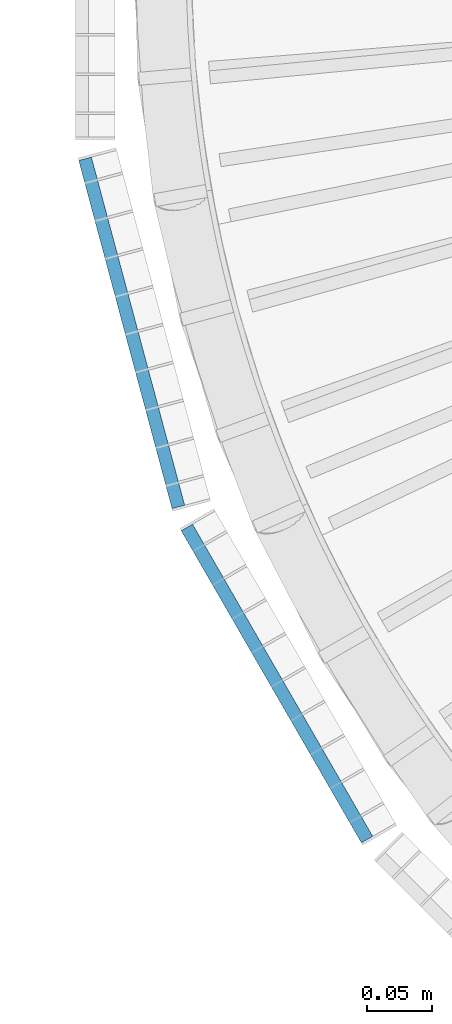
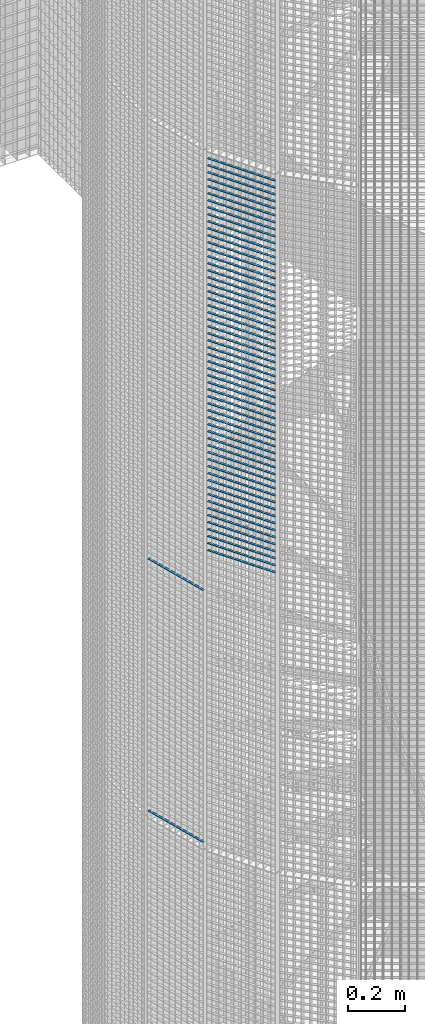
# One storey, part 372 of 1183: 59 beams, 2 elements without a shape of their own.
"""IFC2X3 building model written with IfcOpenShell, lengths in millimetres."""

from ifc_helpers import new_model, si_unit, frame, origin_with_axes, origin_2d_with_axis, place, context, subcontext, project, spatial, rectangle, extrude, material, type_object, element, aggregate, save


model = new_model("IFC2X3")

# Units and contexts
model_context = context("Model", 3, precision=1e-05, world=origin_with_axes())
body_context = subcontext(model_context, "Body", "Model", "MODEL_VIEW")
ifc_project = project(units=[si_unit("LENGTHUNIT", "METRE", prefix="MILLI"), si_unit("AREAUNIT", "SQUARE_METRE"), si_unit("VOLUMEUNIT", "CUBIC_METRE"), si_unit("MASSUNIT", "GRAM", prefix="KILO"), si_unit("TIMEUNIT", "SECOND"), si_unit("PLANEANGLEUNIT", "RADIAN"), si_unit("SOLIDANGLEUNIT", "STERADIAN"), si_unit("THERMODYNAMICTEMPERATUREUNIT", "DEGREE_CELSIUS"), si_unit("LUMINOUSINTENSITYUNIT", "LUMEN")], contexts=[model_context])

# Site, building, storey
site_placement = place(None, origin_with_axes())
site = spatial("IfcSite", under=ifc_project, at=site_placement, Name="Undefined", CompositionType="ELEMENT")
building_placement = place(site_placement, origin_with_axes())
building = spatial("IfcBuilding", under=site, at=building_placement, Name="Undefined", CompositionType="ELEMENT")
storey_placement = place(building_placement, origin_with_axes())
storey = spatial("IfcBuildingStorey", under=building, at=storey_placement, Name="Undefined", CompositionType="ELEMENT", Elevation=0.0)

# Assembly, beams
assembly_1_placement = place(storey_placement, origin_with_axes())
assembly_1 = element("IfcElementAssembly", 1, at=assembly_1_placement, inside=storey, Name="BORDURE", AssemblyPlace="NOTDEFINED", PredefinedType="NOTDEFINED")
ifc_material = material(Name="STEEL/S235JR")
beam_type = type_object("IfcBeamType", Name="PL2*10", PredefinedType="NOTDEFINED")
beam_1_placement = place(assembly_1_placement, frame((20560.1769047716, -421.483733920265, 4110.0), z_axis=(-0.965925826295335, -0.258819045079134, 0.0), x_axis=(-0.258819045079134, 0.965925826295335, 0.0)))
beam_1 = element("IfcBeam", 2, at=beam_1_placement, type_object=beam_type, material=ifc_material, Name="ENTRETOISE", context=body_context, shape_type="SweptSolid", body=[
    extrude(rectangle(XDim=2.0, YDim=10.0, at=origin_2d_with_axis()), frame((275.999999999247, 9.09494701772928e-13, 1.53210777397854e-14), z_axis=(-1.0, 0.0, 0.0), x_axis=(0.0, -1.0, 0.0)), (0.0, 0.0, 1.0), 276.0),
])
beam_2_placement = place(assembly_1_placement, frame((20560.1769047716, -421.48373392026, 3030.0), z_axis=(-0.965925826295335, -0.258819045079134, 0.0), x_axis=(-0.258819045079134, 0.965925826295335, 0.0)))
beam_2 = element("IfcBeam", 3, at=beam_2_placement, type_object=beam_type, material=ifc_material, Name="ENTRETOISE", context=body_context, shape_type="SweptSolid", body=[
    extrude(rectangle(XDim=2.0, YDim=10.0, at=origin_2d_with_axis()), frame((275.999999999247, 9.09494701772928e-13, 1.53210777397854e-14), z_axis=(-1.0, 0.0, 0.0), x_axis=(0.0, -1.0, 0.0)), (0.0, 0.0, 1.0), 276.0),
])
aggregate(assembly_1, [beam_1, beam_2])

assembly_2_placement = place(storey_placement, origin_with_axes())
assembly_2 = element("IfcElementAssembly", 4, at=assembly_2_placement, inside=storey, Name="BORDURE", AssemblyPlace="NOTDEFINED", PredefinedType="NOTDEFINED")
beam_3_placement = place(assembly_2_placement, frame((20704.6960350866, -676.248044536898, 5970.0), z_axis=(-0.866025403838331, -0.499999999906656, 0.0), x_axis=(-0.49999999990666, 0.866025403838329, 0.0)))
beam_3 = element("IfcBeam", 5, at=beam_3_placement, type_object=beam_type, material=ifc_material, Name="ENTRETOISE", context=body_context, shape_type="SweptSolid", body=[
    extrude(rectangle(XDim=2.0, YDim=10.0, at=origin_2d_with_axis()), frame((275.999999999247, 9.09494701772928e-13, 1.53210777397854e-14), z_axis=(-1.0, 0.0, 0.0), x_axis=(0.0, -1.0, 0.0)), (0.0, 0.0, 1.0), 276.0),
])
beam_4_placement = place(assembly_2_placement, frame((20704.6960350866, -676.248044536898, 5940.0), z_axis=(-0.866025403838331, -0.499999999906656, 0.0), x_axis=(-0.49999999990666, 0.866025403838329, 0.0)))
beam_4 = element("IfcBeam", 6, at=beam_4_placement, type_object=beam_type, material=ifc_material, Name="ENTRETOISE", context=body_context, shape_type="SweptSolid", body=[
    extrude(rectangle(XDim=2.0, YDim=10.0, at=origin_2d_with_axis()), frame((275.999999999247, 9.09494701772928e-13, 1.53210777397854e-14), z_axis=(-1.0, 0.0, 0.0), x_axis=(0.0, -1.0, 0.0)), (0.0, 0.0, 1.0), 276.0),
])
beam_5_placement = place(assembly_2_placement, frame((20704.6960350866, -676.248044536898, 5910.0), z_axis=(-0.866025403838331, -0.499999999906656, 0.0), x_axis=(-0.49999999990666, 0.866025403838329, 0.0)))
beam_5 = element("IfcBeam", 7, at=beam_5_placement, type_object=beam_type, material=ifc_material, Name="ENTRETOISE", context=body_context, shape_type="SweptSolid", body=[
    extrude(rectangle(XDim=2.0, YDim=10.0, at=origin_2d_with_axis()), frame((275.999999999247, 9.09494701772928e-13, 1.53210777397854e-14), z_axis=(-1.0, 0.0, 0.0), x_axis=(0.0, -1.0, 0.0)), (0.0, 0.0, 1.0), 276.0),
])
beam_6_placement = place(assembly_2_placement, frame((20704.6960350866, -676.248044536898, 5880.0), z_axis=(-0.866025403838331, -0.499999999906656, 0.0), x_axis=(-0.49999999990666, 0.866025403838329, 0.0)))
beam_6 = element("IfcBeam", 8, at=beam_6_placement, type_object=beam_type, material=ifc_material, Name="ENTRETOISE", context=body_context, shape_type="SweptSolid", body=[
    extrude(rectangle(XDim=2.0, YDim=10.0, at=origin_2d_with_axis()), frame((275.999999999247, 9.09494701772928e-13, 1.53210777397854e-14), z_axis=(-1.0, 0.0, 0.0), x_axis=(0.0, -1.0, 0.0)), (0.0, 0.0, 1.0), 276.0),
])
beam_7_placement = place(assembly_2_placement, frame((20704.6960350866, -676.248044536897, 5850.0), z_axis=(-0.866025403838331, -0.499999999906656, 0.0), x_axis=(-0.49999999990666, 0.866025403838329, 0.0)))
beam_7 = element("IfcBeam", 9, at=beam_7_placement, type_object=beam_type, material=ifc_material, Name="ENTRETOISE", context=body_context, shape_type="SweptSolid", body=[
    extrude(rectangle(XDim=2.0, YDim=10.0, at=origin_2d_with_axis()), frame((275.999999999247, 9.09494701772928e-13, 1.53210777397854e-14), z_axis=(-1.0, 0.0, 0.0), x_axis=(0.0, -1.0, 0.0)), (0.0, 0.0, 1.0), 276.0),
])
beam_8_placement = place(assembly_2_placement, frame((20704.6960350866, -676.248044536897, 5820.0), z_axis=(-0.866025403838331, -0.499999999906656, 0.0), x_axis=(-0.49999999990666, 0.866025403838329, 0.0)))
beam_8 = element("IfcBeam", 10, at=beam_8_placement, type_object=beam_type, material=ifc_material, Name="ENTRETOISE", context=body_context, shape_type="SweptSolid", body=[
    extrude(rectangle(XDim=2.0, YDim=10.0, at=origin_2d_with_axis()), frame((275.999999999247, 9.09494701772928e-13, 1.53210777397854e-14), z_axis=(-1.0, 0.0, 0.0), x_axis=(0.0, -1.0, 0.0)), (0.0, 0.0, 1.0), 276.0),
])
beam_9_placement = place(assembly_2_placement, frame((20704.6960350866, -676.248044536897, 5790.0), z_axis=(-0.866025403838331, -0.499999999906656, 0.0), x_axis=(-0.49999999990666, 0.866025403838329, 0.0)))
beam_9 = element("IfcBeam", 11, at=beam_9_placement, type_object=beam_type, material=ifc_material, Name="ENTRETOISE", context=body_context, shape_type="SweptSolid", body=[
    extrude(rectangle(XDim=2.0, YDim=10.0, at=origin_2d_with_axis()), frame((275.999999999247, 9.09494701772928e-13, 1.53210777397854e-14), z_axis=(-1.0, 0.0, 0.0), x_axis=(0.0, -1.0, 0.0)), (0.0, 0.0, 1.0), 276.0),
])
beam_10_placement = place(assembly_2_placement, frame((20704.6960350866, -676.248044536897, 5760.0), z_axis=(-0.866025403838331, -0.499999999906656, 0.0), x_axis=(-0.49999999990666, 0.866025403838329, 0.0)))
beam_10 = element("IfcBeam", 12, at=beam_10_placement, type_object=beam_type, material=ifc_material, Name="ENTRETOISE", context=body_context, shape_type="SweptSolid", body=[
    extrude(rectangle(XDim=2.0, YDim=10.0, at=origin_2d_with_axis()), frame((275.999999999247, 9.09494701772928e-13, 1.53210777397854e-14), z_axis=(-1.0, 0.0, 0.0), x_axis=(0.0, -1.0, 0.0)), (0.0, 0.0, 1.0), 276.0),
])
beam_11_placement = place(assembly_2_placement, frame((20704.6960350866, -676.248044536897, 5730.0), z_axis=(-0.866025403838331, -0.499999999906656, 0.0), x_axis=(-0.49999999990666, 0.866025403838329, 0.0)))
beam_11 = element("IfcBeam", 13, at=beam_11_placement, type_object=beam_type, material=ifc_material, Name="ENTRETOISE", context=body_context, shape_type="SweptSolid", body=[
    extrude(rectangle(XDim=2.0, YDim=10.0, at=origin_2d_with_axis()), frame((275.999999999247, 9.09494701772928e-13, 1.53210777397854e-14), z_axis=(-1.0, 0.0, 0.0), x_axis=(0.0, -1.0, 0.0)), (0.0, 0.0, 1.0), 276.0),
])
beam_12_placement = place(assembly_2_placement, frame((20704.6960350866, -676.248044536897, 5700.0), z_axis=(-0.866025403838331, -0.499999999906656, 0.0), x_axis=(-0.49999999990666, 0.866025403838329, 0.0)))
beam_12 = element("IfcBeam", 14, at=beam_12_placement, type_object=beam_type, material=ifc_material, Name="ENTRETOISE", context=body_context, shape_type="SweptSolid", body=[
    extrude(rectangle(XDim=2.0, YDim=10.0, at=origin_2d_with_axis()), frame((275.999999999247, 9.09494701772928e-13, 1.53210777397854e-14), z_axis=(-1.0, 0.0, 0.0), x_axis=(0.0, -1.0, 0.0)), (0.0, 0.0, 1.0), 276.0),
])
beam_13_placement = place(assembly_2_placement, frame((20704.6960350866, -676.248044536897, 5670.0), z_axis=(-0.866025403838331, -0.499999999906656, 0.0), x_axis=(-0.49999999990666, 0.866025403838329, 0.0)))
beam_13 = element("IfcBeam", 15, at=beam_13_placement, type_object=beam_type, material=ifc_material, Name="ENTRETOISE", context=body_context, shape_type="SweptSolid", body=[
    extrude(rectangle(XDim=2.0, YDim=10.0, at=origin_2d_with_axis()), frame((275.999999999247, 9.09494701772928e-13, 1.53210777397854e-14), z_axis=(-1.0, 0.0, 0.0), x_axis=(0.0, -1.0, 0.0)), (0.0, 0.0, 1.0), 276.0),
])
beam_14_placement = place(assembly_2_placement, frame((20704.6960350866, -676.248044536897, 5640.0), z_axis=(-0.866025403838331, -0.499999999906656, 0.0), x_axis=(-0.49999999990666, 0.866025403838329, 0.0)))
beam_14 = element("IfcBeam", 16, at=beam_14_placement, type_object=beam_type, material=ifc_material, Name="ENTRETOISE", context=body_context, shape_type="SweptSolid", body=[
    extrude(rectangle(XDim=2.0, YDim=10.0, at=origin_2d_with_axis()), frame((275.999999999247, 9.09494701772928e-13, 1.53210777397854e-14), z_axis=(-1.0, 0.0, 0.0), x_axis=(0.0, -1.0, 0.0)), (0.0, 0.0, 1.0), 276.0),
])
beam_15_placement = place(assembly_2_placement, frame((20704.6960350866, -676.248044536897, 5610.0), z_axis=(-0.866025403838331, -0.499999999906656, 0.0), x_axis=(-0.49999999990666, 0.866025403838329, 0.0)))
beam_15 = element("IfcBeam", 17, at=beam_15_placement, type_object=beam_type, material=ifc_material, Name="ENTRETOISE", context=body_context, shape_type="SweptSolid", body=[
    extrude(rectangle(XDim=2.0, YDim=10.0, at=origin_2d_with_axis()), frame((275.999999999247, 9.09494701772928e-13, 1.53210777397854e-14), z_axis=(-1.0, 0.0, 0.0), x_axis=(0.0, -1.0, 0.0)), (0.0, 0.0, 1.0), 276.0),
])
beam_16_placement = place(assembly_2_placement, frame((20704.6960350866, -676.248044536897, 5580.0), z_axis=(-0.866025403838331, -0.499999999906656, 0.0), x_axis=(-0.49999999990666, 0.866025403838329, 0.0)))
beam_16 = element("IfcBeam", 18, at=beam_16_placement, type_object=beam_type, material=ifc_material, Name="ENTRETOISE", context=body_context, shape_type="SweptSolid", body=[
    extrude(rectangle(XDim=2.0, YDim=10.0, at=origin_2d_with_axis()), frame((275.999999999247, 9.09494701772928e-13, 1.53210777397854e-14), z_axis=(-1.0, 0.0, 0.0), x_axis=(0.0, -1.0, 0.0)), (0.0, 0.0, 1.0), 276.0),
])
beam_17_placement = place(assembly_2_placement, frame((20704.6960350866, -676.248044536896, 5550.0), z_axis=(-0.866025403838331, -0.499999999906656, 0.0), x_axis=(-0.49999999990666, 0.866025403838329, 0.0)))
beam_17 = element("IfcBeam", 19, at=beam_17_placement, type_object=beam_type, material=ifc_material, Name="ENTRETOISE", context=body_context, shape_type="SweptSolid", body=[
    extrude(rectangle(XDim=2.0, YDim=10.0, at=origin_2d_with_axis()), frame((275.999999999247, 9.09494701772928e-13, 1.53210777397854e-14), z_axis=(-1.0, 0.0, 0.0), x_axis=(0.0, -1.0, 0.0)), (0.0, 0.0, 1.0), 276.0),
])
beam_18_placement = place(assembly_2_placement, frame((20704.6960350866, -676.248044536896, 5520.0), z_axis=(-0.866025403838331, -0.499999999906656, 0.0), x_axis=(-0.49999999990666, 0.866025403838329, 0.0)))
beam_18 = element("IfcBeam", 20, at=beam_18_placement, type_object=beam_type, material=ifc_material, Name="ENTRETOISE", context=body_context, shape_type="SweptSolid", body=[
    extrude(rectangle(XDim=2.0, YDim=10.0, at=origin_2d_with_axis()), frame((275.999999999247, 9.09494701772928e-13, 1.53210777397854e-14), z_axis=(-1.0, 0.0, 0.0), x_axis=(0.0, -1.0, 0.0)), (0.0, 0.0, 1.0), 276.0),
])
beam_19_placement = place(assembly_2_placement, frame((20704.6960350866, -676.248044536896, 5490.0), z_axis=(-0.866025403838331, -0.499999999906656, 0.0), x_axis=(-0.49999999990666, 0.866025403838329, 0.0)))
beam_19 = element("IfcBeam", 21, at=beam_19_placement, type_object=beam_type, material=ifc_material, Name="ENTRETOISE", context=body_context, shape_type="SweptSolid", body=[
    extrude(rectangle(XDim=2.0, YDim=10.0, at=origin_2d_with_axis()), frame((275.999999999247, 9.09494701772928e-13, 1.53210777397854e-14), z_axis=(-1.0, 0.0, 0.0), x_axis=(0.0, -1.0, 0.0)), (0.0, 0.0, 1.0), 276.0),
])
beam_20_placement = place(assembly_2_placement, frame((20704.6960350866, -676.248044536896, 5460.0), z_axis=(-0.866025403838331, -0.499999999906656, 0.0), x_axis=(-0.49999999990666, 0.866025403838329, 0.0)))
beam_20 = element("IfcBeam", 22, at=beam_20_placement, type_object=beam_type, material=ifc_material, Name="ENTRETOISE", context=body_context, shape_type="SweptSolid", body=[
    extrude(rectangle(XDim=2.0, YDim=10.0, at=origin_2d_with_axis()), frame((275.999999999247, 9.09494701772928e-13, 1.53210777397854e-14), z_axis=(-1.0, 0.0, 0.0), x_axis=(0.0, -1.0, 0.0)), (0.0, 0.0, 1.0), 276.0),
])
beam_21_placement = place(assembly_2_placement, frame((20704.6960350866, -676.248044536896, 5430.0), z_axis=(-0.866025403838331, -0.499999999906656, 0.0), x_axis=(-0.49999999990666, 0.866025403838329, 0.0)))
beam_21 = element("IfcBeam", 23, at=beam_21_placement, type_object=beam_type, material=ifc_material, Name="ENTRETOISE", context=body_context, shape_type="SweptSolid", body=[
    extrude(rectangle(XDim=2.0, YDim=10.0, at=origin_2d_with_axis()), frame((275.999999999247, 9.09494701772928e-13, 1.53210777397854e-14), z_axis=(-1.0, 0.0, 0.0), x_axis=(0.0, -1.0, 0.0)), (0.0, 0.0, 1.0), 276.0),
])
beam_22_placement = place(assembly_2_placement, frame((20704.6960350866, -676.248044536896, 5400.0), z_axis=(-0.866025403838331, -0.499999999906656, 0.0), x_axis=(-0.49999999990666, 0.866025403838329, 0.0)))
beam_22 = element("IfcBeam", 24, at=beam_22_placement, type_object=beam_type, material=ifc_material, Name="ENTRETOISE", context=body_context, shape_type="SweptSolid", body=[
    extrude(rectangle(XDim=2.0, YDim=10.0, at=origin_2d_with_axis()), frame((275.999999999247, 9.09494701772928e-13, 1.53210777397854e-14), z_axis=(-1.0, 0.0, 0.0), x_axis=(0.0, -1.0, 0.0)), (0.0, 0.0, 1.0), 276.0),
])
beam_23_placement = place(assembly_2_placement, frame((20704.6960350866, -676.248044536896, 5370.0), z_axis=(-0.866025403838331, -0.499999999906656, 0.0), x_axis=(-0.49999999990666, 0.866025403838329, 0.0)))
beam_23 = element("IfcBeam", 25, at=beam_23_placement, type_object=beam_type, material=ifc_material, Name="ENTRETOISE", context=body_context, shape_type="SweptSolid", body=[
    extrude(rectangle(XDim=2.0, YDim=10.0, at=origin_2d_with_axis()), frame((275.999999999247, 9.09494701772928e-13, 1.53210777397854e-14), z_axis=(-1.0, 0.0, 0.0), x_axis=(0.0, -1.0, 0.0)), (0.0, 0.0, 1.0), 276.0),
])
beam_24_placement = place(assembly_2_placement, frame((20704.6960350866, -676.248044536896, 5340.0), z_axis=(-0.866025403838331, -0.499999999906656, 0.0), x_axis=(-0.49999999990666, 0.866025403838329, 0.0)))
beam_24 = element("IfcBeam", 26, at=beam_24_placement, type_object=beam_type, material=ifc_material, Name="ENTRETOISE", context=body_context, shape_type="SweptSolid", body=[
    extrude(rectangle(XDim=2.0, YDim=10.0, at=origin_2d_with_axis()), frame((275.999999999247, 9.09494701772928e-13, 1.53210777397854e-14), z_axis=(-1.0, 0.0, 0.0), x_axis=(0.0, -1.0, 0.0)), (0.0, 0.0, 1.0), 276.0),
])
beam_25_placement = place(assembly_2_placement, frame((20704.6960350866, -676.248044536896, 5310.0), z_axis=(-0.866025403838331, -0.499999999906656, 0.0), x_axis=(-0.49999999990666, 0.866025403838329, 0.0)))
beam_25 = element("IfcBeam", 27, at=beam_25_placement, type_object=beam_type, material=ifc_material, Name="ENTRETOISE", context=body_context, shape_type="SweptSolid", body=[
    extrude(rectangle(XDim=2.0, YDim=10.0, at=origin_2d_with_axis()), frame((275.999999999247, 9.09494701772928e-13, 1.53210777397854e-14), z_axis=(-1.0, 0.0, 0.0), x_axis=(0.0, -1.0, 0.0)), (0.0, 0.0, 1.0), 276.0),
])
beam_26_placement = place(assembly_2_placement, frame((20704.6960350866, -676.248044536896, 5280.0), z_axis=(-0.866025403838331, -0.499999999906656, 0.0), x_axis=(-0.49999999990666, 0.866025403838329, 0.0)))
beam_26 = element("IfcBeam", 28, at=beam_26_placement, type_object=beam_type, material=ifc_material, Name="ENTRETOISE", context=body_context, shape_type="SweptSolid", body=[
    extrude(rectangle(XDim=2.0, YDim=10.0, at=origin_2d_with_axis()), frame((275.999999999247, 9.09494701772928e-13, 1.53210777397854e-14), z_axis=(-1.0, 0.0, 0.0), x_axis=(0.0, -1.0, 0.0)), (0.0, 0.0, 1.0), 276.0),
])
beam_27_placement = place(assembly_2_placement, frame((20704.6960350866, -676.248044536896, 5250.0), z_axis=(-0.866025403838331, -0.499999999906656, 0.0), x_axis=(-0.49999999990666, 0.866025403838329, 0.0)))
beam_27 = element("IfcBeam", 29, at=beam_27_placement, type_object=beam_type, material=ifc_material, Name="ENTRETOISE", context=body_context, shape_type="SweptSolid", body=[
    extrude(rectangle(XDim=2.0, YDim=10.0, at=origin_2d_with_axis()), frame((275.999999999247, 9.09494701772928e-13, 1.53210777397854e-14), z_axis=(-1.0, 0.0, 0.0), x_axis=(0.0, -1.0, 0.0)), (0.0, 0.0, 1.0), 276.0),
])
beam_28_placement = place(assembly_2_placement, frame((20704.6960350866, -676.248044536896, 5220.0), z_axis=(-0.866025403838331, -0.499999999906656, 0.0), x_axis=(-0.49999999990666, 0.866025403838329, 0.0)))
beam_28 = element("IfcBeam", 30, at=beam_28_placement, type_object=beam_type, material=ifc_material, Name="ENTRETOISE", context=body_context, shape_type="SweptSolid", body=[
    extrude(rectangle(XDim=2.0, YDim=10.0, at=origin_2d_with_axis()), frame((275.999999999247, 9.09494701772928e-13, 1.53210777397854e-14), z_axis=(-1.0, 0.0, 0.0), x_axis=(0.0, -1.0, 0.0)), (0.0, 0.0, 1.0), 276.0),
])
beam_29_placement = place(assembly_2_placement, frame((20704.6960350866, -676.248044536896, 5190.0), z_axis=(-0.866025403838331, -0.499999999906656, 0.0), x_axis=(-0.49999999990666, 0.866025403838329, 0.0)))
beam_29 = element("IfcBeam", 31, at=beam_29_placement, type_object=beam_type, material=ifc_material, Name="ENTRETOISE", context=body_context, shape_type="SweptSolid", body=[
    extrude(rectangle(XDim=2.0, YDim=10.0, at=origin_2d_with_axis()), frame((275.999999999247, 9.09494701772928e-13, 1.53210777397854e-14), z_axis=(-1.0, 0.0, 0.0), x_axis=(0.0, -1.0, 0.0)), (0.0, 0.0, 1.0), 276.0),
])
beam_30_placement = place(assembly_2_placement, frame((20704.6960350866, -676.248044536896, 5160.0), z_axis=(-0.866025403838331, -0.499999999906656, 0.0), x_axis=(-0.49999999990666, 0.866025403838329, 0.0)))
beam_30 = element("IfcBeam", 32, at=beam_30_placement, type_object=beam_type, material=ifc_material, Name="ENTRETOISE", context=body_context, shape_type="SweptSolid", body=[
    extrude(rectangle(XDim=2.0, YDim=10.0, at=origin_2d_with_axis()), frame((275.999999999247, 9.09494701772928e-13, 1.53210777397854e-14), z_axis=(-1.0, 0.0, 0.0), x_axis=(0.0, -1.0, 0.0)), (0.0, 0.0, 1.0), 276.0),
])
beam_31_placement = place(assembly_2_placement, frame((20704.6960350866, -676.248044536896, 5130.0), z_axis=(-0.866025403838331, -0.499999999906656, 0.0), x_axis=(-0.49999999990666, 0.866025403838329, 0.0)))
beam_31 = element("IfcBeam", 33, at=beam_31_placement, type_object=beam_type, material=ifc_material, Name="ENTRETOISE", context=body_context, shape_type="SweptSolid", body=[
    extrude(rectangle(XDim=2.0, YDim=10.0, at=origin_2d_with_axis()), frame((275.999999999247, 9.09494701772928e-13, 1.53210777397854e-14), z_axis=(-1.0, 0.0, 0.0), x_axis=(0.0, -1.0, 0.0)), (0.0, 0.0, 1.0), 276.0),
])
beam_32_placement = place(assembly_2_placement, frame((20704.6960350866, -676.248044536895, 5100.0), z_axis=(-0.866025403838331, -0.499999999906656, 0.0), x_axis=(-0.49999999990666, 0.866025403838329, 0.0)))
beam_32 = element("IfcBeam", 34, at=beam_32_placement, type_object=beam_type, material=ifc_material, Name="ENTRETOISE", context=body_context, shape_type="SweptSolid", body=[
    extrude(rectangle(XDim=2.0, YDim=10.0, at=origin_2d_with_axis()), frame((275.999999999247, 9.09494701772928e-13, 1.53210777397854e-14), z_axis=(-1.0, 0.0, 0.0), x_axis=(0.0, -1.0, 0.0)), (0.0, 0.0, 1.0), 276.0),
])
beam_33_placement = place(assembly_2_placement, frame((20704.6960350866, -676.248044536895, 5070.0), z_axis=(-0.866025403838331, -0.499999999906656, 0.0), x_axis=(-0.49999999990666, 0.866025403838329, 0.0)))
beam_33 = element("IfcBeam", 35, at=beam_33_placement, type_object=beam_type, material=ifc_material, Name="ENTRETOISE", context=body_context, shape_type="SweptSolid", body=[
    extrude(rectangle(XDim=2.0, YDim=10.0, at=origin_2d_with_axis()), frame((275.999999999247, 9.09494701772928e-13, 1.53210777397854e-14), z_axis=(-1.0, 0.0, 0.0), x_axis=(0.0, -1.0, 0.0)), (0.0, 0.0, 1.0), 276.0),
])
beam_34_placement = place(assembly_2_placement, frame((20704.6960350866, -676.248044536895, 5040.0), z_axis=(-0.866025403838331, -0.499999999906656, 0.0), x_axis=(-0.49999999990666, 0.866025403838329, 0.0)))
beam_34 = element("IfcBeam", 36, at=beam_34_placement, type_object=beam_type, material=ifc_material, Name="ENTRETOISE", context=body_context, shape_type="SweptSolid", body=[
    extrude(rectangle(XDim=2.0, YDim=10.0, at=origin_2d_with_axis()), frame((275.999999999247, 9.09494701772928e-13, 1.53210777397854e-14), z_axis=(-1.0, 0.0, 0.0), x_axis=(0.0, -1.0, 0.0)), (0.0, 0.0, 1.0), 276.0),
])
beam_35_placement = place(assembly_2_placement, frame((20704.6960350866, -676.248044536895, 5010.0), z_axis=(-0.866025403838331, -0.499999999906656, 0.0), x_axis=(-0.49999999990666, 0.866025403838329, 0.0)))
beam_35 = element("IfcBeam", 37, at=beam_35_placement, type_object=beam_type, material=ifc_material, Name="ENTRETOISE", context=body_context, shape_type="SweptSolid", body=[
    extrude(rectangle(XDim=2.0, YDim=10.0, at=origin_2d_with_axis()), frame((275.999999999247, 9.09494701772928e-13, 1.53210777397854e-14), z_axis=(-1.0, 0.0, 0.0), x_axis=(0.0, -1.0, 0.0)), (0.0, 0.0, 1.0), 276.0),
])
beam_36_placement = place(assembly_2_placement, frame((20704.6960350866, -676.248044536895, 4980.0), z_axis=(-0.866025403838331, -0.499999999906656, 0.0), x_axis=(-0.49999999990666, 0.866025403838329, 0.0)))
beam_36 = element("IfcBeam", 38, at=beam_36_placement, type_object=beam_type, material=ifc_material, Name="ENTRETOISE", context=body_context, shape_type="SweptSolid", body=[
    extrude(rectangle(XDim=2.0, YDim=10.0, at=origin_2d_with_axis()), frame((275.999999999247, 9.09494701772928e-13, 1.53210777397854e-14), z_axis=(-1.0, 0.0, 0.0), x_axis=(0.0, -1.0, 0.0)), (0.0, 0.0, 1.0), 276.0),
])
beam_37_placement = place(assembly_2_placement, frame((20704.6960350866, -676.248044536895, 4950.0), z_axis=(-0.866025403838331, -0.499999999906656, 0.0), x_axis=(-0.49999999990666, 0.866025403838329, 0.0)))
beam_37 = element("IfcBeam", 39, at=beam_37_placement, type_object=beam_type, material=ifc_material, Name="ENTRETOISE", context=body_context, shape_type="SweptSolid", body=[
    extrude(rectangle(XDim=2.0, YDim=10.0, at=origin_2d_with_axis()), frame((275.999999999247, 9.09494701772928e-13, 1.53210777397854e-14), z_axis=(-1.0, 0.0, 0.0), x_axis=(0.0, -1.0, 0.0)), (0.0, 0.0, 1.0), 276.0),
])
beam_38_placement = place(assembly_2_placement, frame((20704.6960350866, -676.248044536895, 4920.0), z_axis=(-0.866025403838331, -0.499999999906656, 0.0), x_axis=(-0.49999999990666, 0.866025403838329, 0.0)))
beam_38 = element("IfcBeam", 40, at=beam_38_placement, type_object=beam_type, material=ifc_material, Name="ENTRETOISE", context=body_context, shape_type="SweptSolid", body=[
    extrude(rectangle(XDim=2.0, YDim=10.0, at=origin_2d_with_axis()), frame((275.999999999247, 9.09494701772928e-13, 1.53210777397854e-14), z_axis=(-1.0, 0.0, 0.0), x_axis=(0.0, -1.0, 0.0)), (0.0, 0.0, 1.0), 276.0),
])
beam_39_placement = place(assembly_2_placement, frame((20704.6960350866, -676.248044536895, 4890.0), z_axis=(-0.866025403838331, -0.499999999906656, 0.0), x_axis=(-0.49999999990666, 0.866025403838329, 0.0)))
beam_39 = element("IfcBeam", 41, at=beam_39_placement, type_object=beam_type, material=ifc_material, Name="ENTRETOISE", context=body_context, shape_type="SweptSolid", body=[
    extrude(rectangle(XDim=2.0, YDim=10.0, at=origin_2d_with_axis()), frame((275.999999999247, 9.09494701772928e-13, 1.53210777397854e-14), z_axis=(-1.0, 0.0, 0.0), x_axis=(0.0, -1.0, 0.0)), (0.0, 0.0, 1.0), 276.0),
])
beam_40_placement = place(assembly_2_placement, frame((20704.6960350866, -676.248044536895, 4860.0), z_axis=(-0.866025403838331, -0.499999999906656, 0.0), x_axis=(-0.49999999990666, 0.866025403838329, 0.0)))
beam_40 = element("IfcBeam", 42, at=beam_40_placement, type_object=beam_type, material=ifc_material, Name="ENTRETOISE", context=body_context, shape_type="SweptSolid", body=[
    extrude(rectangle(XDim=2.0, YDim=10.0, at=origin_2d_with_axis()), frame((275.999999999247, 9.09494701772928e-13, 1.53210777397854e-14), z_axis=(-1.0, 0.0, 0.0), x_axis=(0.0, -1.0, 0.0)), (0.0, 0.0, 1.0), 276.0),
])
beam_41_placement = place(assembly_2_placement, frame((20704.6960350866, -676.248044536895, 4830.0), z_axis=(-0.866025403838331, -0.499999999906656, 0.0), x_axis=(-0.49999999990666, 0.866025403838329, 0.0)))
beam_41 = element("IfcBeam", 43, at=beam_41_placement, type_object=beam_type, material=ifc_material, Name="ENTRETOISE", context=body_context, shape_type="SweptSolid", body=[
    extrude(rectangle(XDim=2.0, YDim=10.0, at=origin_2d_with_axis()), frame((275.999999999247, 9.09494701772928e-13, 1.53210777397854e-14), z_axis=(-1.0, 0.0, 0.0), x_axis=(0.0, -1.0, 0.0)), (0.0, 0.0, 1.0), 276.0),
])
beam_42_placement = place(assembly_2_placement, frame((20704.6960350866, -676.248044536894, 4800.0), z_axis=(-0.866025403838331, -0.499999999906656, 0.0), x_axis=(-0.49999999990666, 0.866025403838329, 0.0)))
beam_42 = element("IfcBeam", 44, at=beam_42_placement, type_object=beam_type, material=ifc_material, Name="ENTRETOISE", context=body_context, shape_type="SweptSolid", body=[
    extrude(rectangle(XDim=2.0, YDim=10.0, at=origin_2d_with_axis()), frame((275.999999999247, 9.09494701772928e-13, 1.53210777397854e-14), z_axis=(-1.0, 0.0, 0.0), x_axis=(0.0, -1.0, 0.0)), (0.0, 0.0, 1.0), 276.0),
])
beam_43_placement = place(assembly_2_placement, frame((20704.6960350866, -676.248044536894, 4770.0), z_axis=(-0.866025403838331, -0.499999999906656, 0.0), x_axis=(-0.49999999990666, 0.866025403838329, 0.0)))
beam_43 = element("IfcBeam", 45, at=beam_43_placement, type_object=beam_type, material=ifc_material, Name="ENTRETOISE", context=body_context, shape_type="SweptSolid", body=[
    extrude(rectangle(XDim=2.0, YDim=10.0, at=origin_2d_with_axis()), frame((275.999999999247, 9.09494701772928e-13, 1.53210777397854e-14), z_axis=(-1.0, 0.0, 0.0), x_axis=(0.0, -1.0, 0.0)), (0.0, 0.0, 1.0), 276.0),
])
beam_44_placement = place(assembly_2_placement, frame((20704.6960350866, -676.248044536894, 4740.0), z_axis=(-0.866025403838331, -0.499999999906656, 0.0), x_axis=(-0.49999999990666, 0.866025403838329, 0.0)))
beam_44 = element("IfcBeam", 46, at=beam_44_placement, type_object=beam_type, material=ifc_material, Name="ENTRETOISE", context=body_context, shape_type="SweptSolid", body=[
    extrude(rectangle(XDim=2.0, YDim=10.0, at=origin_2d_with_axis()), frame((275.999999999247, 9.09494701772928e-13, 1.53210777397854e-14), z_axis=(-1.0, 0.0, 0.0), x_axis=(0.0, -1.0, 0.0)), (0.0, 0.0, 1.0), 276.0),
])
beam_45_placement = place(assembly_2_placement, frame((20704.6960350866, -676.248044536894, 4710.0), z_axis=(-0.866025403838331, -0.499999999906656, 0.0), x_axis=(-0.49999999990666, 0.866025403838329, 0.0)))
beam_45 = element("IfcBeam", 47, at=beam_45_placement, type_object=beam_type, material=ifc_material, Name="ENTRETOISE", context=body_context, shape_type="SweptSolid", body=[
    extrude(rectangle(XDim=2.0, YDim=10.0, at=origin_2d_with_axis()), frame((275.999999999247, 9.09494701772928e-13, 1.53210777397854e-14), z_axis=(-1.0, 0.0, 0.0), x_axis=(0.0, -1.0, 0.0)), (0.0, 0.0, 1.0), 276.0),
])
beam_46_placement = place(assembly_2_placement, frame((20704.6960350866, -676.248044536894, 4680.0), z_axis=(-0.866025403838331, -0.499999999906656, 0.0), x_axis=(-0.49999999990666, 0.866025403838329, 0.0)))
beam_46 = element("IfcBeam", 48, at=beam_46_placement, type_object=beam_type, material=ifc_material, Name="ENTRETOISE", context=body_context, shape_type="SweptSolid", body=[
    extrude(rectangle(XDim=2.0, YDim=10.0, at=origin_2d_with_axis()), frame((275.999999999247, 9.09494701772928e-13, 1.53210777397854e-14), z_axis=(-1.0, 0.0, 0.0), x_axis=(0.0, -1.0, 0.0)), (0.0, 0.0, 1.0), 276.0),
])
beam_47_placement = place(assembly_2_placement, frame((20704.6960350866, -676.248044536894, 4650.0), z_axis=(-0.866025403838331, -0.499999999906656, 0.0), x_axis=(-0.49999999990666, 0.866025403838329, 0.0)))
beam_47 = element("IfcBeam", 49, at=beam_47_placement, type_object=beam_type, material=ifc_material, Name="ENTRETOISE", context=body_context, shape_type="SweptSolid", body=[
    extrude(rectangle(XDim=2.0, YDim=10.0, at=origin_2d_with_axis()), frame((275.999999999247, 9.09494701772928e-13, 1.53210777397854e-14), z_axis=(-1.0, 0.0, 0.0), x_axis=(0.0, -1.0, 0.0)), (0.0, 0.0, 1.0), 276.0),
])
beam_48_placement = place(assembly_2_placement, frame((20704.6960350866, -676.248044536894, 4620.0), z_axis=(-0.866025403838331, -0.499999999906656, 0.0), x_axis=(-0.49999999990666, 0.866025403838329, 0.0)))
beam_48 = element("IfcBeam", 50, at=beam_48_placement, type_object=beam_type, material=ifc_material, Name="ENTRETOISE", context=body_context, shape_type="SweptSolid", body=[
    extrude(rectangle(XDim=2.0, YDim=10.0, at=origin_2d_with_axis()), frame((275.999999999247, 9.09494701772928e-13, 1.53210777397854e-14), z_axis=(-1.0, 0.0, 0.0), x_axis=(0.0, -1.0, 0.0)), (0.0, 0.0, 1.0), 276.0),
])
beam_49_placement = place(assembly_2_placement, frame((20704.6960350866, -676.248044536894, 4590.0), z_axis=(-0.866025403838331, -0.499999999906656, 0.0), x_axis=(-0.49999999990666, 0.866025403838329, 0.0)))
beam_49 = element("IfcBeam", 51, at=beam_49_placement, type_object=beam_type, material=ifc_material, Name="ENTRETOISE", context=body_context, shape_type="SweptSolid", body=[
    extrude(rectangle(XDim=2.0, YDim=10.0, at=origin_2d_with_axis()), frame((275.999999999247, 9.09494701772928e-13, 1.53210777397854e-14), z_axis=(-1.0, 0.0, 0.0), x_axis=(0.0, -1.0, 0.0)), (0.0, 0.0, 1.0), 276.0),
])
beam_50_placement = place(assembly_2_placement, frame((20704.6960350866, -676.248044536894, 4560.0), z_axis=(-0.866025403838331, -0.499999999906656, 0.0), x_axis=(-0.49999999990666, 0.866025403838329, 0.0)))
beam_50 = element("IfcBeam", 52, at=beam_50_placement, type_object=beam_type, material=ifc_material, Name="ENTRETOISE", context=body_context, shape_type="SweptSolid", body=[
    extrude(rectangle(XDim=2.0, YDim=10.0, at=origin_2d_with_axis()), frame((275.999999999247, 9.09494701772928e-13, 1.53210777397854e-14), z_axis=(-1.0, 0.0, 0.0), x_axis=(0.0, -1.0, 0.0)), (0.0, 0.0, 1.0), 276.0),
])
beam_51_placement = place(assembly_2_placement, frame((20704.6960350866, -676.248044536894, 4530.0), z_axis=(-0.866025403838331, -0.499999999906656, 0.0), x_axis=(-0.49999999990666, 0.866025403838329, 0.0)))
beam_51 = element("IfcBeam", 53, at=beam_51_placement, type_object=beam_type, material=ifc_material, Name="ENTRETOISE", context=body_context, shape_type="SweptSolid", body=[
    extrude(rectangle(XDim=2.0, YDim=10.0, at=origin_2d_with_axis()), frame((275.999999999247, 9.09494701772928e-13, 1.53210777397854e-14), z_axis=(-1.0, 0.0, 0.0), x_axis=(0.0, -1.0, 0.0)), (0.0, 0.0, 1.0), 276.0),
])
beam_52_placement = place(assembly_2_placement, frame((20704.6960350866, -676.248044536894, 4500.0), z_axis=(-0.866025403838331, -0.499999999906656, 0.0), x_axis=(-0.49999999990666, 0.866025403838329, 0.0)))
beam_52 = element("IfcBeam", 54, at=beam_52_placement, type_object=beam_type, material=ifc_material, Name="ENTRETOISE", context=body_context, shape_type="SweptSolid", body=[
    extrude(rectangle(XDim=2.0, YDim=10.0, at=origin_2d_with_axis()), frame((275.999999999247, 9.09494701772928e-13, 1.53210777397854e-14), z_axis=(-1.0, 0.0, 0.0), x_axis=(0.0, -1.0, 0.0)), (0.0, 0.0, 1.0), 276.0),
])
beam_53_placement = place(assembly_2_placement, frame((20704.6960350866, -676.248044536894, 4470.0), z_axis=(-0.866025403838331, -0.499999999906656, 0.0), x_axis=(-0.49999999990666, 0.866025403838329, 0.0)))
beam_53 = element("IfcBeam", 55, at=beam_53_placement, type_object=beam_type, material=ifc_material, Name="ENTRETOISE", context=body_context, shape_type="SweptSolid", body=[
    extrude(rectangle(XDim=2.0, YDim=10.0, at=origin_2d_with_axis()), frame((275.999999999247, 9.09494701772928e-13, 1.53210777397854e-14), z_axis=(-1.0, 0.0, 0.0), x_axis=(0.0, -1.0, 0.0)), (0.0, 0.0, 1.0), 276.0),
])
beam_54_placement = place(assembly_2_placement, frame((20704.6960350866, -676.248044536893, 4440.0), z_axis=(-0.866025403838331, -0.499999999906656, 0.0), x_axis=(-0.49999999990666, 0.866025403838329, 0.0)))
beam_54 = element("IfcBeam", 56, at=beam_54_placement, type_object=beam_type, material=ifc_material, Name="ENTRETOISE", context=body_context, shape_type="SweptSolid", body=[
    extrude(rectangle(XDim=2.0, YDim=10.0, at=origin_2d_with_axis()), frame((275.999999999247, 9.09494701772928e-13, 1.53210777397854e-14), z_axis=(-1.0, 0.0, 0.0), x_axis=(0.0, -1.0, 0.0)), (0.0, 0.0, 1.0), 276.0),
])
beam_55_placement = place(assembly_2_placement, frame((20704.6960350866, -676.248044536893, 4410.0), z_axis=(-0.866025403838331, -0.499999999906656, 0.0), x_axis=(-0.49999999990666, 0.866025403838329, 0.0)))
beam_55 = element("IfcBeam", 57, at=beam_55_placement, type_object=beam_type, material=ifc_material, Name="ENTRETOISE", context=body_context, shape_type="SweptSolid", body=[
    extrude(rectangle(XDim=2.0, YDim=10.0, at=origin_2d_with_axis()), frame((275.999999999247, 9.09494701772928e-13, 1.53210777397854e-14), z_axis=(-1.0, 0.0, 0.0), x_axis=(0.0, -1.0, 0.0)), (0.0, 0.0, 1.0), 276.0),
])
beam_56_placement = place(assembly_2_placement, frame((20704.6960350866, -676.248044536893, 4380.0), z_axis=(-0.866025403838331, -0.499999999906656, 0.0), x_axis=(-0.49999999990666, 0.866025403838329, 0.0)))
beam_56 = element("IfcBeam", 58, at=beam_56_placement, type_object=beam_type, material=ifc_material, Name="ENTRETOISE", context=body_context, shape_type="SweptSolid", body=[
    extrude(rectangle(XDim=2.0, YDim=10.0, at=origin_2d_with_axis()), frame((275.999999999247, 9.09494701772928e-13, 1.53210777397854e-14), z_axis=(-1.0, 0.0, 0.0), x_axis=(0.0, -1.0, 0.0)), (0.0, 0.0, 1.0), 276.0),
])
beam_57_placement = place(assembly_2_placement, frame((20704.6960350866, -676.248044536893, 4350.0), z_axis=(-0.866025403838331, -0.499999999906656, 0.0), x_axis=(-0.49999999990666, 0.866025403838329, 0.0)))
beam_57 = element("IfcBeam", 59, at=beam_57_placement, type_object=beam_type, material=ifc_material, Name="ENTRETOISE", context=body_context, shape_type="SweptSolid", body=[
    extrude(rectangle(XDim=2.0, YDim=10.0, at=origin_2d_with_axis()), frame((275.999999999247, 9.09494701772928e-13, 1.53210777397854e-14), z_axis=(-1.0, 0.0, 0.0), x_axis=(0.0, -1.0, 0.0)), (0.0, 0.0, 1.0), 276.0),
])
beam_58_placement = place(assembly_2_placement, frame((20704.6960350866, -676.248044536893, 4320.0), z_axis=(-0.866025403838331, -0.499999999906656, 0.0), x_axis=(-0.49999999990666, 0.866025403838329, 0.0)))
beam_58 = element("IfcBeam", 60, at=beam_58_placement, type_object=beam_type, material=ifc_material, Name="ENTRETOISE", context=body_context, shape_type="SweptSolid", body=[
    extrude(rectangle(XDim=2.0, YDim=10.0, at=origin_2d_with_axis()), frame((275.999999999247, 9.09494701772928e-13, 1.53210777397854e-14), z_axis=(-1.0, 0.0, 0.0), x_axis=(0.0, -1.0, 0.0)), (0.0, 0.0, 1.0), 276.0),
])
beam_59_placement = place(assembly_2_placement, frame((20704.6960350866, -676.248044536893, 4290.0), z_axis=(-0.866025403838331, -0.499999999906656, 0.0), x_axis=(-0.49999999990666, 0.866025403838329, 0.0)))
beam_59 = element("IfcBeam", 61, at=beam_59_placement, type_object=beam_type, material=ifc_material, Name="ENTRETOISE", context=body_context, shape_type="SweptSolid", body=[
    extrude(rectangle(XDim=2.0, YDim=10.0, at=origin_2d_with_axis()), frame((275.999999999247, 9.09494701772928e-13, 1.53210777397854e-14), z_axis=(-1.0, 0.0, 0.0), x_axis=(0.0, -1.0, 0.0)), (0.0, 0.0, 1.0), 276.0),
])
aggregate(assembly_2, [beam_3, beam_4, beam_5, beam_6, beam_7, beam_8, beam_9, beam_10, beam_11, beam_12, beam_13, beam_14, beam_15, beam_16, beam_17, beam_18, beam_19, beam_20, beam_21, beam_22, beam_23, beam_24, beam_25, beam_26, beam_27, beam_28, beam_29, beam_30, beam_31, beam_32, beam_33, beam_34, beam_35, beam_36, beam_37, beam_38, beam_39, beam_40, beam_41, beam_42, beam_43, beam_44, beam_45, beam_46, beam_47, beam_48, beam_49, beam_50, beam_51, beam_52, beam_53, beam_54, beam_55, beam_56, beam_57, beam_58, beam_59])

save(model, "model.ifc")
